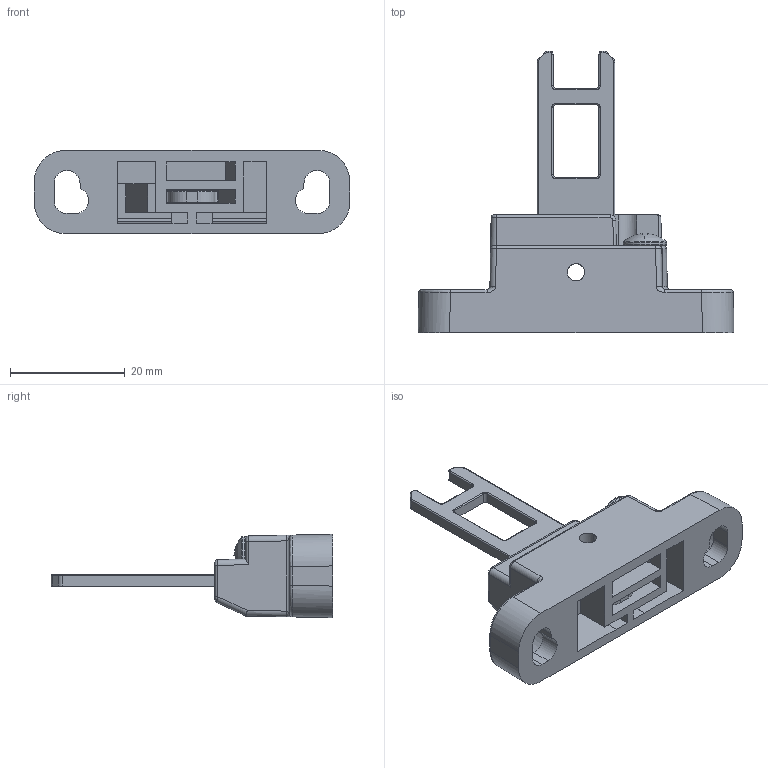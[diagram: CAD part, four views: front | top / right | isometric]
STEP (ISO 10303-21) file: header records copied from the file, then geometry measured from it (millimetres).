
FILE_DESCRIPTION((''),'2;1');
FILE_NAME('ASM-K5_ASM','2021-12-13T',('Administrator'),(''),'PRO/ENGINEER BY PARAMETRIC TECHNOLOGY CORPORATION, 2010280','PRO/ENGINEER BY PARAMETRIC TECHNOLOGY CORPORATION, 2010280','');
FILE_SCHEMA(('CONFIG_CONTROL_DESIGN'));
Length unit declared in the file: millimetre
Products named in the file (4): GONGNENGYAOSHI; YAOSHIZUO-HSET; 4X8-LS; ASM-K5_ASM
Assembly tree (3 placements, depth 2):
  ASM-K5_ASM
    GONGNENGYAOSHI
    YAOSHIZUO-HSET
    4X8-LS
Bounding box: 55 x 49 x 14.5 mm (x, y, z)
Volume: 7336 mm3; surface area: 7484 mm2
Topology: 3 solids, 3 shells, 324 faces, 808 edges, 496 vertices
Faces by surface type: cylinder 127, plane 121, bspline 35, torus 28, sphere 10, cone 3
Entity records: 13081 total; most frequent: CARTESIAN_POINT 5432, ORIENTED_EDGE 1616, DIRECTION 1534, EDGE_CURVE 808, AXIS2_PLACEMENT_3D 550, VERTEX_POINT 496, VECTOR 434, LINE 434
